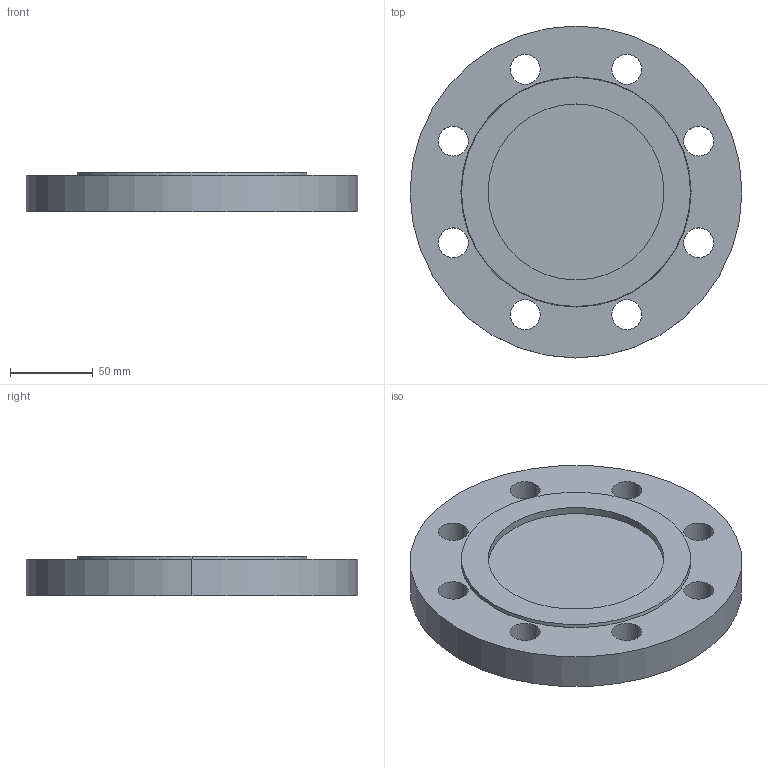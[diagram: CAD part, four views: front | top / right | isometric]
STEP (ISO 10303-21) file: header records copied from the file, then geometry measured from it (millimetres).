
FILE_DESCRIPTION (( 'STEP AP214' ), '1' );
FILE_NAME ('PN40 DN80 Type 05 - Type G Face.STEP', '2019-01-01T19:43:53', ( '' ), ( '' ), 'SwSTEP 2.0', 'SolidWorks 2019', '' );
FILE_SCHEMA (( 'AUTOMOTIVE_DESIGN' ));
Length unit declared in the file: millimetre
Products named in the file (1): PN40 DN80 Type 05 - Type G Face
Bounding box: 200 x 200 x 24 mm (x, y, z)
Volume: 636719.9 mm3; surface area: 84763.9 mm2
Topology: 1 solids, 1 shells, 26 faces, 66 edges, 44 vertices
Faces by surface type: cylinder 20, plane 4, cone 2
Entity records: 880 total; most frequent: DIRECTION 164, CARTESIAN_POINT 137, ORIENTED_EDGE 132, AXIS2_PLACEMENT_3D 71, EDGE_CURVE 66, CIRCLE 44, VERTEX_POINT 44, EDGE_LOOP 44
